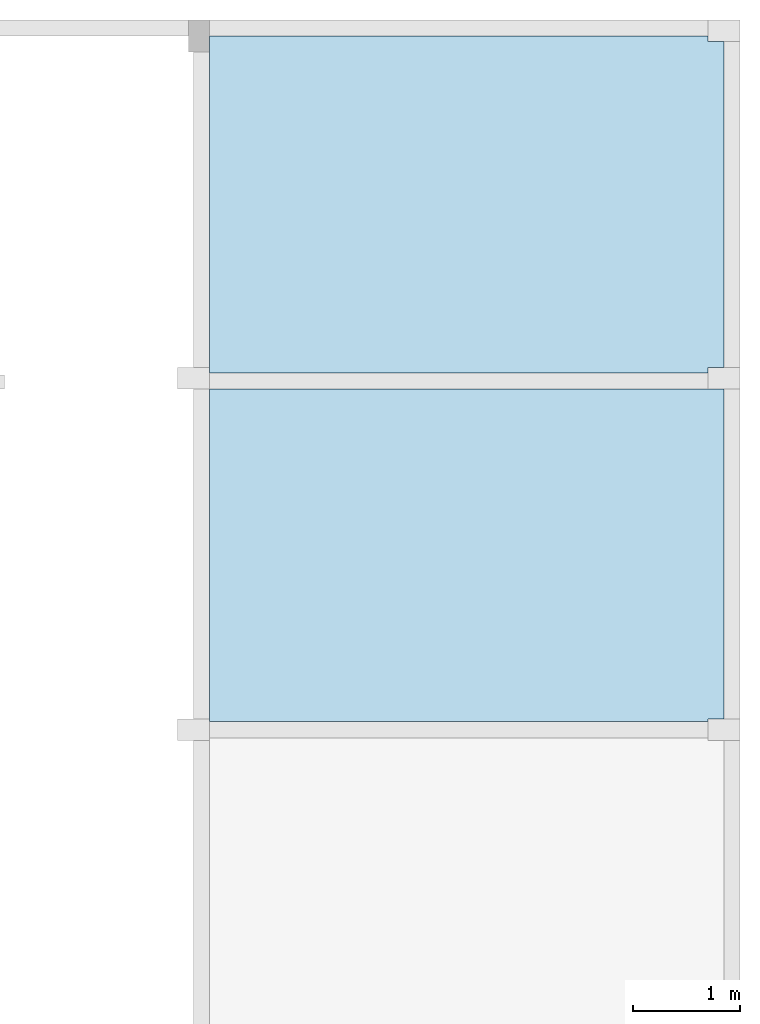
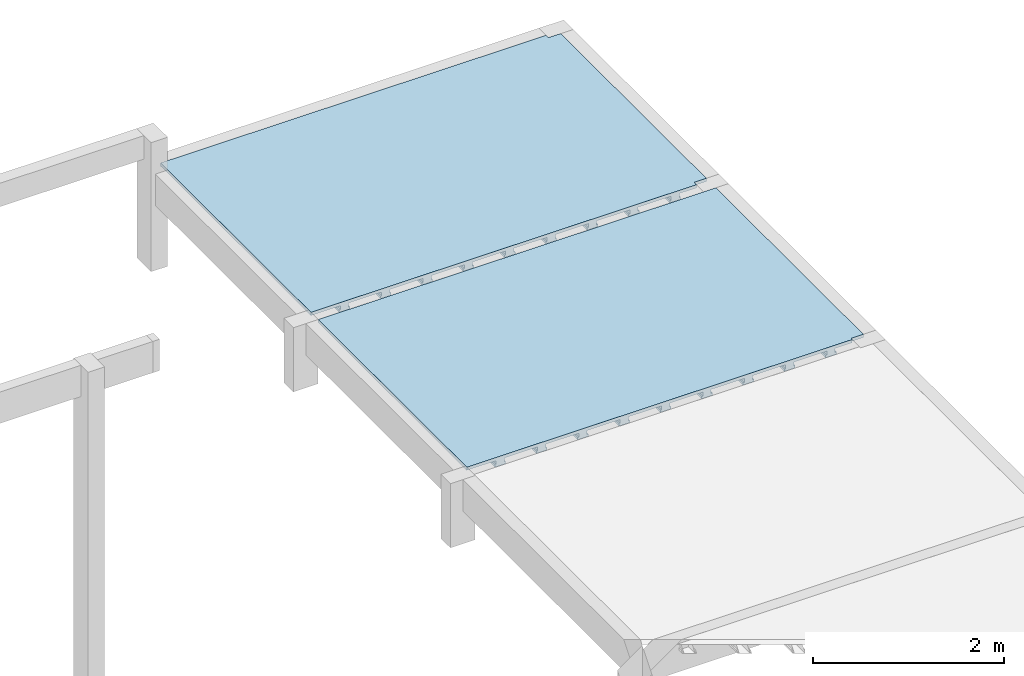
# One storey, part 3 of 3: 2 slabs.
"""IFC4 building model written with IfcOpenShell, lengths in centimetres."""

from ifc_helpers import new_model, si_unit, derived_unit, frame, origin_with_axes, place, context, project, spatial, polyline, outline, extrude, faceted_brep, material, element, save


model = new_model("IFC4")

# Units and contexts
model_context = context("Model", 3, precision=1e-05, world=origin_with_axes(), identifier="Body")
ifc_project = project(units=[si_unit("LENGTHUNIT", "METRE", prefix="CENTI"), si_unit("VOLUMEUNIT", "CUBIC_METRE"), si_unit("AREAUNIT", "SQUARE_METRE"), si_unit("POWERUNIT", "WATT"), si_unit("LUMINOUSFLUXUNIT", "LUMEN"), si_unit("ELECTRICCURRENTUNIT", "AMPERE"), si_unit("PRESSUREUNIT", "PASCAL", prefix="KILO"), si_unit("MASSUNIT", "GRAM", prefix="KILO"), si_unit("PLANEANGLEUNIT", "RADIAN"), derived_unit("VOLUMETRICFLOWRATEUNIT", [(si_unit("LENGTHUNIT", "METRE"), 3), (si_unit("TIMEUNIT", "SECOND"), -1)])], contexts=[model_context])

# Site, building, storey
site_placement = place(None, origin_with_axes())
site = spatial("IfcSite", under=ifc_project, at=site_placement)
building_placement = place(site_placement, frame((0.0, 0.0, -295.0)))
building = spatial("IfcBuilding", under=site, at=building_placement)
placement_1 = place(building_placement, origin_with_axes())
placement_2 = place(placement_1, frame((0.0, 0.0, 101.0), z_axis=(0.0, 0.0, 1.0), x_axis=(1.0, 0.0, 0.0)))
placement_3 = place(placement_2, frame((0.0, 0.0, 204.0), z_axis=(0.0, 0.0, 1.0), x_axis=(1.0, 0.0, 0.0)))
placement_4 = place(placement_3, frame((0.0, 0.0, 292.0), z_axis=(0.0, 0.0, 1.0), x_axis=(1.0, 0.0, 0.0)))
placement_5 = place(placement_4, frame((0.0, 0.0, 302.0), z_axis=(0.0, 0.0, 1.0), x_axis=(1.0, 0.0, 0.0)))
placement_6 = place(placement_5, frame((0.0, 0.0, 326.0), z_axis=(0.0, 0.0, 1.0), x_axis=(1.0, 0.0, 0.0)))
storey_placement = place(placement_6, frame((0.0, 0.0, 124.0), z_axis=(0.0, 0.0, 1.0), x_axis=(1.0, 0.0, 0.0)))
storey = spatial("IfcBuildingStorey", under=building, at=storey_placement, Name="TELHADO CINE", CompositionType="ELEMENT", Elevation=1054.0)

# Slabs
ifc_material = material(Name="Concreto")
slab_1_placement = place(storey_placement, frame((3761.2355, -5277.0845, -42.0), z_axis=(0.0, 0.0, 1.0), x_axis=(1.0, 0.0, 0.0)))
element("IfcSlab", 1, at=slab_1_placement, inside=storey, material=ifc_material, Name="L401", PredefinedType="FLOOR", context=model_context, shape_type="SolidModel", body=[
    extrude(outline(polyline([(225.504, -152.604), (240.525, -152.604), (240.525, 152.534), (225.525, 152.534), (225.524, 157.534), (-240.504, 157.535), (-240.524, -157.534), (225.505, -157.534), (225.504, -152.604), (225.504, -152.604)])), frame((-0.0005, -0.0005, -4.0), z_axis=(0.0, 0.0, 1.0), x_axis=(1.0, 0.0, 0.0)), (0.0, 0.0, 1.0), 4.0),
    faceted_brep([(-5.0005, -157.5345, -12.0), (-5.0005, 157.534, -12.0), (4.9995, 157.534, -12.0), (4.9995, -157.5345, -12.0), (4.9995, -157.5345, -4.0), (4.9995, 157.534, -4.0), (-5.0005, 157.534, -4.0), (-5.0005, -157.5345, -4.0)], [[[0, 1, 2, 3]], [[4, 5, 6, 7]], [[4, 3, 5]], [[3, 2, 5]], [[5, 2, 6]], [[2, 1, 6]], [[6, 1, 7]], [[1, 0, 7]], [[7, 0, 4]], [[0, 3, 4]]]),
    faceted_brep([(-6.5005, -157.5345, -12.0), (-6.5005, 157.534, -12.0), (-5.0005, 157.534, -12.0), (-5.0005, -157.5345, -12.0), (-5.0005, -157.5345, -9.0), (-5.0005, 157.534, -9.0), (-6.5005, 157.534, -9.0), (-6.5005, -157.5345, -9.0)], [[[0, 1, 2, 3]], [[4, 5, 6, 7]], [[4, 3, 5]], [[3, 2, 5]], [[5, 2, 6]], [[2, 1, 6]], [[6, 1, 7]], [[1, 0, 7]], [[7, 0, 4]], [[0, 3, 4]]]),
    faceted_brep([(4.9995, -157.5345, -12.0), (4.9995, 157.534, -12.0), (6.4995, 157.534, -12.0), (6.4995, -157.5345, -12.0), (6.4995, -157.5345, -9.0), (6.4995, 157.534, -9.0), (4.9995, 157.534, -9.0), (4.9995, -157.5345, -9.0)], [[[0, 1, 2, 3]], [[4, 5, 6, 7]], [[4, 3, 5]], [[3, 2, 5]], [[5, 2, 6]], [[2, 1, 6]], [[6, 1, 7]], [[1, 0, 7]], [[7, 0, 4]], [[0, 3, 4]]]),
    faceted_brep([(-55.0005, -157.5345, -12.0), (-55.0005, 157.534, -12.0), (-45.0005, 157.534, -12.0), (-45.0005, -157.5345, -12.0), (-45.0005, -157.5345, -4.0), (-45.0005, 157.534, -4.0), (-55.0005, 157.534, -4.0), (-55.0005, -157.5345, -4.0)], [[[0, 1, 2, 3]], [[4, 5, 6, 7]], [[4, 3, 5]], [[3, 2, 5]], [[5, 2, 6]], [[2, 1, 6]], [[6, 1, 7]], [[1, 0, 7]], [[7, 0, 4]], [[0, 3, 4]]]),
    faceted_brep([(-56.5005, -157.5345, -12.0), (-56.5005, 157.534, -12.0), (-55.0005, 157.534, -12.0), (-55.0005, -157.5345, -12.0), (-55.0005, -157.5345, -9.0), (-55.0005, 157.534, -9.0), (-56.5005, 157.534, -9.0), (-56.5005, -157.5345, -9.0)], [[[0, 1, 2, 3]], [[4, 5, 6, 7]], [[4, 3, 5]], [[3, 2, 5]], [[5, 2, 6]], [[2, 1, 6]], [[6, 1, 7]], [[1, 0, 7]], [[7, 0, 4]], [[0, 3, 4]]]),
    faceted_brep([(-45.0005, -157.5345, -12.0), (-45.0005, 157.534, -12.0), (-43.5005, 157.534, -12.0), (-43.5005, -157.5345, -12.0), (-43.5005, -157.5345, -9.0), (-43.5005, 157.534, -9.0), (-45.0005, 157.534, -9.0), (-45.0005, -157.5345, -9.0)], [[[0, 1, 2, 3]], [[4, 5, 6, 7]], [[4, 3, 5]], [[3, 2, 5]], [[5, 2, 6]], [[2, 1, 6]], [[6, 1, 7]], [[1, 0, 7]], [[7, 0, 4]], [[0, 3, 4]]]),
    faceted_brep([(-105.0005, -157.5345, -12.0), (-105.0005, 157.534, -12.0), (-95.0005, 157.534, -12.0), (-95.0005, -157.5345, -12.0), (-95.0005, -157.5345, -4.0), (-95.0005, 157.534, -4.0), (-105.0005, 157.534, -4.0), (-105.0005, -157.5345, -4.0)], [[[0, 1, 2, 3]], [[4, 5, 6, 7]], [[4, 3, 5]], [[3, 2, 5]], [[5, 2, 6]], [[2, 1, 6]], [[6, 1, 7]], [[1, 0, 7]], [[7, 0, 4]], [[0, 3, 4]]]),
    faceted_brep([(-106.5005, -157.5345, -12.0), (-106.5005, 157.534, -12.0), (-105.0005, 157.534, -12.0), (-105.0005, -157.5345, -12.0), (-105.0005, -157.5345, -9.0), (-105.0005, 157.534, -9.0), (-106.5005, 157.534, -9.0), (-106.5005, -157.5345, -9.0)], [[[0, 1, 2, 3]], [[4, 5, 6, 7]], [[4, 3, 5]], [[3, 2, 5]], [[5, 2, 6]], [[2, 1, 6]], [[6, 1, 7]], [[1, 0, 7]], [[7, 0, 4]], [[0, 3, 4]]]),
    faceted_brep([(-95.0005, -157.5345, -12.0), (-95.0005, 157.534, -12.0), (-93.5005, 157.534, -12.0), (-93.5005, -157.5345, -12.0), (-93.5005, -157.5345, -9.0), (-93.5005, 157.534, -9.0), (-95.0005, 157.534, -9.0), (-95.0005, -157.5345, -9.0)], [[[0, 1, 2, 3]], [[4, 5, 6, 7]], [[4, 3, 5]], [[3, 2, 5]], [[5, 2, 6]], [[2, 1, 6]], [[6, 1, 7]], [[1, 0, 7]], [[7, 0, 4]], [[0, 3, 4]]]),
    faceted_brep([(-155.0005, -157.5345, -12.0), (-155.0005, 157.534, -12.0), (-145.0005, 157.534, -12.0), (-145.0005, -157.5345, -12.0), (-145.0005, -157.5345, -4.0), (-145.0005, 157.534, -4.0), (-155.0005, 157.534, -4.0), (-155.0005, -157.5345, -4.0)], [[[0, 1, 2, 3]], [[4, 5, 6, 7]], [[4, 3, 5]], [[3, 2, 5]], [[5, 2, 6]], [[2, 1, 6]], [[6, 1, 7]], [[1, 0, 7]], [[7, 0, 4]], [[0, 3, 4]]]),
    faceted_brep([(-156.5005, -157.5345, -12.0), (-156.5005, 157.534, -12.0), (-155.0005, 157.534, -12.0), (-155.0005, -157.5345, -12.0), (-155.0005, -157.5345, -9.0), (-155.0005, 157.534, -9.0), (-156.5005, 157.534, -9.0), (-156.5005, -157.5345, -9.0)], [[[0, 1, 2, 3]], [[4, 5, 6, 7]], [[4, 3, 5]], [[3, 2, 5]], [[5, 2, 6]], [[2, 1, 6]], [[6, 1, 7]], [[1, 0, 7]], [[7, 0, 4]], [[0, 3, 4]]]),
    faceted_brep([(-145.0005, -157.5345, -12.0), (-145.0005, 157.534, -12.0), (-143.5005, 157.534, -12.0), (-143.5005, -157.5345, -12.0), (-143.5005, -157.5345, -9.0), (-143.5005, 157.534, -9.0), (-145.0005, 157.534, -9.0), (-145.0005, -157.5345, -9.0)], [[[0, 1, 2, 3]], [[4, 5, 6, 7]], [[4, 3, 5]], [[3, 2, 5]], [[5, 2, 6]], [[2, 1, 6]], [[6, 1, 7]], [[1, 0, 7]], [[7, 0, 4]], [[0, 3, 4]]]),
    faceted_brep([(-205.0005, -157.5345, -12.0), (-205.0005, 157.534, -12.0), (-195.0005, 157.534, -12.0), (-195.0005, -157.5345, -12.0), (-195.0005, -157.5345, -4.0), (-195.0005, 157.534, -4.0), (-205.0005, 157.534, -4.0), (-205.0005, -157.5345, -4.0)], [[[0, 1, 2, 3]], [[4, 5, 6, 7]], [[4, 3, 5]], [[3, 2, 5]], [[5, 2, 6]], [[2, 1, 6]], [[6, 1, 7]], [[1, 0, 7]], [[7, 0, 4]], [[0, 3, 4]]]),
    faceted_brep([(-206.5005, -157.5345, -12.0), (-206.5005, 157.534, -12.0), (-205.0005, 157.534, -12.0), (-205.0005, -157.5345, -12.0), (-205.0005, -157.5345, -9.0), (-205.0005, 157.534, -9.0), (-206.5005, 157.534, -9.0), (-206.5005, -157.5345, -9.0)], [[[0, 1, 2, 3]], [[4, 5, 6, 7]], [[4, 3, 5]], [[3, 2, 5]], [[5, 2, 6]], [[2, 1, 6]], [[6, 1, 7]], [[1, 0, 7]], [[7, 0, 4]], [[0, 3, 4]]]),
    faceted_brep([(-195.0005, -157.5345, -12.0), (-195.0005, 157.534, -12.0), (-193.5005, 157.534, -12.0), (-193.5005, -157.5345, -12.0), (-193.5005, -157.5345, -9.0), (-193.5005, 157.534, -9.0), (-195.0005, 157.534, -9.0), (-195.0005, -157.5345, -9.0)], [[[0, 1, 2, 3]], [[4, 5, 6, 7]], [[4, 3, 5]], [[3, 2, 5]], [[5, 2, 6]], [[2, 1, 6]], [[6, 1, 7]], [[1, 0, 7]], [[7, 0, 4]], [[0, 3, 4]]]),
    faceted_brep([(44.9995, -157.5345, -12.0), (44.9995, 157.534, -12.0), (54.9995, 157.534, -12.0), (54.9995, -157.5345, -12.0), (54.9995, -157.5345, -4.0), (54.9995, 157.534, -4.0), (44.9995, 157.534, -4.0), (44.9995, -157.5345, -4.0)], [[[0, 1, 2, 3]], [[4, 5, 6, 7]], [[4, 3, 5]], [[3, 2, 5]], [[5, 2, 6]], [[2, 1, 6]], [[6, 1, 7]], [[1, 0, 7]], [[7, 0, 4]], [[0, 3, 4]]]),
    faceted_brep([(43.4995, -157.5345, -12.0), (43.4995, 157.534, -12.0), (44.9995, 157.534, -12.0), (44.9995, -157.5345, -12.0), (44.9995, -157.5345, -9.0), (44.9995, 157.534, -9.0), (43.4995, 157.534, -9.0), (43.4995, -157.5345, -9.0)], [[[0, 1, 2, 3]], [[4, 5, 6, 7]], [[4, 3, 5]], [[3, 2, 5]], [[5, 2, 6]], [[2, 1, 6]], [[6, 1, 7]], [[1, 0, 7]], [[7, 0, 4]], [[0, 3, 4]]]),
    faceted_brep([(54.9995, -157.5345, -12.0), (54.9995, 157.534, -12.0), (56.4995, 157.534, -12.0), (56.4995, -157.5345, -12.0), (56.4995, -157.5345, -9.0), (56.4995, 157.534, -9.0), (54.9995, 157.534, -9.0), (54.9995, -157.5345, -9.0)], [[[0, 1, 2, 3]], [[4, 5, 6, 7]], [[4, 3, 5]], [[3, 2, 5]], [[5, 2, 6]], [[2, 1, 6]], [[6, 1, 7]], [[1, 0, 7]], [[7, 0, 4]], [[0, 3, 4]]]),
    faceted_brep([(94.9995, -157.5345, -12.0), (94.9995, 157.534, -12.0), (104.9995, 157.534, -12.0), (104.9995, -157.5345, -12.0), (104.9995, -157.5345, -4.0), (104.9995, 157.534, -4.0), (94.9995, 157.534, -4.0), (94.9995, -157.5345, -4.0)], [[[0, 1, 2, 3]], [[4, 5, 6, 7]], [[4, 3, 5]], [[3, 2, 5]], [[5, 2, 6]], [[2, 1, 6]], [[6, 1, 7]], [[1, 0, 7]], [[7, 0, 4]], [[0, 3, 4]]]),
    faceted_brep([(93.4995, -157.5345, -12.0), (93.4995, 157.534, -12.0), (94.9995, 157.534, -12.0), (94.9995, -157.5345, -12.0), (94.9995, -157.5345, -9.0), (94.9995, 157.534, -9.0), (93.4995, 157.534, -9.0), (93.4995, -157.5345, -9.0)], [[[0, 1, 2, 3]], [[4, 5, 6, 7]], [[4, 3, 5]], [[3, 2, 5]], [[5, 2, 6]], [[2, 1, 6]], [[6, 1, 7]], [[1, 0, 7]], [[7, 0, 4]], [[0, 3, 4]]]),
    faceted_brep([(104.9995, -157.5345, -12.0), (104.9995, 157.534, -12.0), (106.4995, 157.534, -12.0), (106.4995, -157.5345, -12.0), (106.4995, -157.5345, -9.0), (106.4995, 157.534, -9.0), (104.9995, 157.534, -9.0), (104.9995, -157.5345, -9.0)], [[[0, 1, 2, 3]], [[4, 5, 6, 7]], [[4, 3, 5]], [[3, 2, 5]], [[5, 2, 6]], [[2, 1, 6]], [[6, 1, 7]], [[1, 0, 7]], [[7, 0, 4]], [[0, 3, 4]]]),
    faceted_brep([(144.9995, -157.5345, -12.0), (144.9995, 157.534, -12.0), (154.9995, 157.534, -12.0), (154.9995, -157.5345, -12.0), (154.9995, -157.5345, -4.0), (154.9995, 157.534, -4.0), (144.9995, 157.534, -4.0), (144.9995, -157.5345, -4.0)], [[[0, 1, 2, 3]], [[4, 5, 6, 7]], [[4, 3, 5]], [[3, 2, 5]], [[5, 2, 6]], [[2, 1, 6]], [[6, 1, 7]], [[1, 0, 7]], [[7, 0, 4]], [[0, 3, 4]]]),
    faceted_brep([(143.4995, -157.5345, -12.0), (143.4995, 157.534, -12.0), (144.9995, 157.534, -12.0), (144.9995, -157.5345, -12.0), (144.9995, -157.5345, -9.0), (144.9995, 157.534, -9.0), (143.4995, 157.534, -9.0), (143.4995, -157.5345, -9.0)], [[[0, 1, 2, 3]], [[4, 5, 6, 7]], [[4, 3, 5]], [[3, 2, 5]], [[5, 2, 6]], [[2, 1, 6]], [[6, 1, 7]], [[1, 0, 7]], [[7, 0, 4]], [[0, 3, 4]]]),
    faceted_brep([(154.9995, -157.5345, -12.0), (154.9995, 157.534, -12.0), (156.4995, 157.534, -12.0), (156.4995, -157.5345, -12.0), (156.4995, -157.5345, -9.0), (156.4995, 157.534, -9.0), (154.9995, 157.534, -9.0), (154.9995, -157.5345, -9.0)], [[[0, 1, 2, 3]], [[4, 5, 6, 7]], [[4, 3, 5]], [[3, 2, 5]], [[5, 2, 6]], [[2, 1, 6]], [[6, 1, 7]], [[1, 0, 7]], [[7, 0, 4]], [[0, 3, 4]]]),
    faceted_brep([(194.9995, -157.5345, -12.0), (194.9995, 157.534, -12.0), (204.9995, 157.534, -12.0), (204.9995, -157.5345, -12.0), (204.9995, -157.5345, -4.0), (204.9995, 157.534, -4.0), (194.9995, 157.534, -4.0), (194.9995, -157.5345, -4.0)], [[[0, 1, 2, 3]], [[4, 5, 6, 7]], [[4, 3, 5]], [[3, 2, 5]], [[5, 2, 6]], [[2, 1, 6]], [[6, 1, 7]], [[1, 0, 7]], [[7, 0, 4]], [[0, 3, 4]]]),
    faceted_brep([(193.4995, -157.5345, -12.0), (193.4995, 157.534, -12.0), (194.9995, 157.534, -12.0), (194.9995, -157.5345, -12.0), (194.9995, -157.5345, -9.0), (194.9995, 157.534, -9.0), (193.4995, 157.534, -9.0), (193.4995, -157.5345, -9.0)], [[[0, 1, 2, 3]], [[4, 5, 6, 7]], [[4, 3, 5]], [[3, 2, 5]], [[5, 2, 6]], [[2, 1, 6]], [[6, 1, 7]], [[1, 0, 7]], [[7, 0, 4]], [[0, 3, 4]]]),
    faceted_brep([(204.9995, -157.5345, -12.0), (204.9995, 157.534, -12.0), (206.4995, 157.534, -12.0), (206.4995, -157.5345, -12.0), (206.4995, -157.5345, -9.0), (206.4995, 157.534, -9.0), (204.9995, 157.534, -9.0), (204.9995, -157.5345, -9.0)], [[[0, 1, 2, 3]], [[4, 5, 6, 7]], [[4, 3, 5]], [[3, 2, 5]], [[5, 2, 6]], [[2, 1, 6]], [[6, 1, 7]], [[1, 0, 7]], [[7, 0, 4]], [[0, 3, 4]]]),
])
slab_2_placement = place(storey_placement, frame((3761.2355, -5605.37, -42.0), z_axis=(0.0, 0.0, 1.0), x_axis=(1.0, 0.0, 0.0)))
element("IfcSlab", 2, at=slab_2_placement, inside=storey, material=ifc_material, Name="L402", PredefinedType="FLOOR", context=model_context, shape_type="SolidModel", body=[
    extrude(outline(polyline([(225.525, -153.18), (240.525, -153.179), (240.525, 155.68), (-240.524, 155.68), (-240.505, -155.679), (225.525, -155.68), (225.525, -153.18), (225.525, -153.18)])), frame((-0.0005, 0.0, -4.0), z_axis=(0.0, 0.0, 1.0), x_axis=(1.0, 0.0, 0.0)), (0.0, 0.0, 1.0), 4.0),
    faceted_brep([(-5.0005, -155.6795, -12.0), (-5.0005, 155.68, -12.0), (4.9995, 155.68, -12.0), (4.9995, -155.6795, -12.0), (4.9995, -155.6795, -4.0), (4.9995, 155.68, -4.0), (-5.0005, 155.68, -4.0), (-5.0005, -155.6795, -4.0)], [[[0, 1, 2, 3]], [[4, 5, 6, 7]], [[4, 3, 5]], [[3, 2, 5]], [[5, 2, 6]], [[2, 1, 6]], [[6, 1, 7]], [[1, 0, 7]], [[7, 0, 4]], [[0, 3, 4]]]),
    faceted_brep([(-6.5005, -155.6795, -12.0), (-6.5005, 155.68, -12.0), (-5.0005, 155.68, -12.0), (-5.0005, -155.6795, -12.0), (-5.0005, -155.6795, -9.0), (-5.0005, 155.68, -9.0), (-6.5005, 155.68, -9.0), (-6.5005, -155.6795, -9.0)], [[[0, 1, 2, 3]], [[4, 5, 6, 7]], [[4, 3, 5]], [[3, 2, 5]], [[5, 2, 6]], [[2, 1, 6]], [[6, 1, 7]], [[1, 0, 7]], [[7, 0, 4]], [[0, 3, 4]]]),
    faceted_brep([(4.9995, -155.6795, -12.0), (4.9995, 155.68, -12.0), (6.4995, 155.68, -12.0), (6.4995, -155.6795, -12.0), (6.4995, -155.6795, -9.0), (6.4995, 155.68, -9.0), (4.9995, 155.68, -9.0), (4.9995, -155.6795, -9.0)], [[[0, 1, 2, 3]], [[4, 5, 6, 7]], [[4, 3, 5]], [[3, 2, 5]], [[5, 2, 6]], [[2, 1, 6]], [[6, 1, 7]], [[1, 0, 7]], [[7, 0, 4]], [[0, 3, 4]]]),
    faceted_brep([(-55.0005, -155.6795, -12.0), (-55.0005, 155.68, -12.0), (-45.0005, 155.68, -12.0), (-45.0005, -155.6795, -12.0), (-45.0005, -155.6795, -4.0), (-45.0005, 155.68, -4.0), (-55.0005, 155.68, -4.0), (-55.0005, -155.6795, -4.0)], [[[0, 1, 2, 3]], [[4, 5, 6, 7]], [[4, 3, 5]], [[3, 2, 5]], [[5, 2, 6]], [[2, 1, 6]], [[6, 1, 7]], [[1, 0, 7]], [[7, 0, 4]], [[0, 3, 4]]]),
    faceted_brep([(-56.5005, -155.6795, -12.0), (-56.5005, 155.68, -12.0), (-55.0005, 155.68, -12.0), (-55.0005, -155.6795, -12.0), (-55.0005, -155.6795, -9.0), (-55.0005, 155.68, -9.0), (-56.5005, 155.68, -9.0), (-56.5005, -155.6795, -9.0)], [[[0, 1, 2, 3]], [[4, 5, 6, 7]], [[4, 3, 5]], [[3, 2, 5]], [[5, 2, 6]], [[2, 1, 6]], [[6, 1, 7]], [[1, 0, 7]], [[7, 0, 4]], [[0, 3, 4]]]),
    faceted_brep([(-45.0005, -155.6795, -12.0), (-45.0005, 155.68, -12.0), (-43.5005, 155.68, -12.0), (-43.5005, -155.6795, -12.0), (-43.5005, -155.6795, -9.0), (-43.5005, 155.68, -9.0), (-45.0005, 155.68, -9.0), (-45.0005, -155.6795, -9.0)], [[[0, 1, 2, 3]], [[4, 5, 6, 7]], [[4, 3, 5]], [[3, 2, 5]], [[5, 2, 6]], [[2, 1, 6]], [[6, 1, 7]], [[1, 0, 7]], [[7, 0, 4]], [[0, 3, 4]]]),
    faceted_brep([(-105.0005, -155.6795, -12.0), (-105.0005, 155.68, -12.0), (-95.0005, 155.68, -12.0), (-95.0005, -155.6795, -12.0), (-95.0005, -155.6795, -4.0), (-95.0005, 155.68, -4.0), (-105.0005, 155.68, -4.0), (-105.0005, -155.6795, -4.0)], [[[0, 1, 2, 3]], [[4, 5, 6, 7]], [[4, 3, 5]], [[3, 2, 5]], [[5, 2, 6]], [[2, 1, 6]], [[6, 1, 7]], [[1, 0, 7]], [[7, 0, 4]], [[0, 3, 4]]]),
    faceted_brep([(-106.5005, -155.6795, -12.0), (-106.5005, 155.68, -12.0), (-105.0005, 155.68, -12.0), (-105.0005, -155.6795, -12.0), (-105.0005, -155.6795, -9.0), (-105.0005, 155.68, -9.0), (-106.5005, 155.68, -9.0), (-106.5005, -155.6795, -9.0)], [[[0, 1, 2, 3]], [[4, 5, 6, 7]], [[4, 3, 5]], [[3, 2, 5]], [[5, 2, 6]], [[2, 1, 6]], [[6, 1, 7]], [[1, 0, 7]], [[7, 0, 4]], [[0, 3, 4]]]),
    faceted_brep([(-95.0005, -155.6795, -12.0), (-95.0005, 155.68, -12.0), (-93.5005, 155.68, -12.0), (-93.5005, -155.6795, -12.0), (-93.5005, -155.6795, -9.0), (-93.5005, 155.68, -9.0), (-95.0005, 155.68, -9.0), (-95.0005, -155.6795, -9.0)], [[[0, 1, 2, 3]], [[4, 5, 6, 7]], [[4, 3, 5]], [[3, 2, 5]], [[5, 2, 6]], [[2, 1, 6]], [[6, 1, 7]], [[1, 0, 7]], [[7, 0, 4]], [[0, 3, 4]]]),
    faceted_brep([(-155.0005, -155.6795, -12.0), (-155.0005, 155.68, -12.0), (-145.0005, 155.68, -12.0), (-145.0005, -155.6795, -12.0), (-145.0005, -155.6795, -4.0), (-145.0005, 155.68, -4.0), (-155.0005, 155.68, -4.0), (-155.0005, -155.6795, -4.0)], [[[0, 1, 2, 3]], [[4, 5, 6, 7]], [[4, 3, 5]], [[3, 2, 5]], [[5, 2, 6]], [[2, 1, 6]], [[6, 1, 7]], [[1, 0, 7]], [[7, 0, 4]], [[0, 3, 4]]]),
    faceted_brep([(-156.5005, -155.6795, -12.0), (-156.5005, 155.68, -12.0), (-155.0005, 155.68, -12.0), (-155.0005, -155.6795, -12.0), (-155.0005, -155.6795, -9.0), (-155.0005, 155.68, -9.0), (-156.5005, 155.68, -9.0), (-156.5005, -155.6795, -9.0)], [[[0, 1, 2, 3]], [[4, 5, 6, 7]], [[4, 3, 5]], [[3, 2, 5]], [[5, 2, 6]], [[2, 1, 6]], [[6, 1, 7]], [[1, 0, 7]], [[7, 0, 4]], [[0, 3, 4]]]),
    faceted_brep([(-145.0005, -155.6795, -12.0), (-145.0005, 155.68, -12.0), (-143.5005, 155.68, -12.0), (-143.5005, -155.6795, -12.0), (-143.5005, -155.6795, -9.0), (-143.5005, 155.68, -9.0), (-145.0005, 155.68, -9.0), (-145.0005, -155.6795, -9.0)], [[[0, 1, 2, 3]], [[4, 5, 6, 7]], [[4, 3, 5]], [[3, 2, 5]], [[5, 2, 6]], [[2, 1, 6]], [[6, 1, 7]], [[1, 0, 7]], [[7, 0, 4]], [[0, 3, 4]]]),
    faceted_brep([(-205.0005, -155.6795, -12.0), (-205.0005, 155.68, -12.0), (-195.0005, 155.68, -12.0), (-195.0005, -155.6795, -12.0), (-195.0005, -155.6795, -4.0), (-195.0005, 155.68, -4.0), (-205.0005, 155.68, -4.0), (-205.0005, -155.6795, -4.0)], [[[0, 1, 2, 3]], [[4, 5, 6, 7]], [[4, 3, 5]], [[3, 2, 5]], [[5, 2, 6]], [[2, 1, 6]], [[6, 1, 7]], [[1, 0, 7]], [[7, 0, 4]], [[0, 3, 4]]]),
    faceted_brep([(-206.5005, -155.6795, -12.0), (-206.5005, 155.68, -12.0), (-205.0005, 155.68, -12.0), (-205.0005, -155.6795, -12.0), (-205.0005, -155.6795, -9.0), (-205.0005, 155.68, -9.0), (-206.5005, 155.68, -9.0), (-206.5005, -155.6795, -9.0)], [[[0, 1, 2, 3]], [[4, 5, 6, 7]], [[4, 3, 5]], [[3, 2, 5]], [[5, 2, 6]], [[2, 1, 6]], [[6, 1, 7]], [[1, 0, 7]], [[7, 0, 4]], [[0, 3, 4]]]),
    faceted_brep([(-195.0005, -155.6795, -12.0), (-195.0005, 155.68, -12.0), (-193.5005, 155.68, -12.0), (-193.5005, -155.6795, -12.0), (-193.5005, -155.6795, -9.0), (-193.5005, 155.68, -9.0), (-195.0005, 155.68, -9.0), (-195.0005, -155.6795, -9.0)], [[[0, 1, 2, 3]], [[4, 5, 6, 7]], [[4, 3, 5]], [[3, 2, 5]], [[5, 2, 6]], [[2, 1, 6]], [[6, 1, 7]], [[1, 0, 7]], [[7, 0, 4]], [[0, 3, 4]]]),
    faceted_brep([(44.9995, -155.6795, -12.0), (44.9995, 155.68, -12.0), (54.9995, 155.68, -12.0), (54.9995, -155.6795, -12.0), (54.9995, -155.6795, -4.0), (54.9995, 155.68, -4.0), (44.9995, 155.68, -4.0), (44.9995, -155.6795, -4.0)], [[[0, 1, 2, 3]], [[4, 5, 6, 7]], [[4, 3, 5]], [[3, 2, 5]], [[5, 2, 6]], [[2, 1, 6]], [[6, 1, 7]], [[1, 0, 7]], [[7, 0, 4]], [[0, 3, 4]]]),
    faceted_brep([(43.4995, -155.6795, -12.0), (43.4995, 155.68, -12.0), (44.9995, 155.68, -12.0), (44.9995, -155.6795, -12.0), (44.9995, -155.6795, -9.0), (44.9995, 155.68, -9.0), (43.4995, 155.68, -9.0), (43.4995, -155.6795, -9.0)], [[[0, 1, 2, 3]], [[4, 5, 6, 7]], [[4, 3, 5]], [[3, 2, 5]], [[5, 2, 6]], [[2, 1, 6]], [[6, 1, 7]], [[1, 0, 7]], [[7, 0, 4]], [[0, 3, 4]]]),
    faceted_brep([(54.9995, -155.6795, -12.0), (54.9995, 155.68, -12.0), (56.4995, 155.68, -12.0), (56.4995, -155.6795, -12.0), (56.4995, -155.6795, -9.0), (56.4995, 155.68, -9.0), (54.9995, 155.68, -9.0), (54.9995, -155.6795, -9.0)], [[[0, 1, 2, 3]], [[4, 5, 6, 7]], [[4, 3, 5]], [[3, 2, 5]], [[5, 2, 6]], [[2, 1, 6]], [[6, 1, 7]], [[1, 0, 7]], [[7, 0, 4]], [[0, 3, 4]]]),
    faceted_brep([(94.9995, -155.6795, -12.0), (94.9995, 155.68, -12.0), (104.9995, 155.68, -12.0), (104.9995, -155.6795, -12.0), (104.9995, -155.6795, -4.0), (104.9995, 155.68, -4.0), (94.9995, 155.68, -4.0), (94.9995, -155.6795, -4.0)], [[[0, 1, 2, 3]], [[4, 5, 6, 7]], [[4, 3, 5]], [[3, 2, 5]], [[5, 2, 6]], [[2, 1, 6]], [[6, 1, 7]], [[1, 0, 7]], [[7, 0, 4]], [[0, 3, 4]]]),
    faceted_brep([(93.4995, -155.6795, -12.0), (93.4995, 155.68, -12.0), (94.9995, 155.68, -12.0), (94.9995, -155.6795, -12.0), (94.9995, -155.6795, -9.0), (94.9995, 155.68, -9.0), (93.4995, 155.68, -9.0), (93.4995, -155.6795, -9.0)], [[[0, 1, 2, 3]], [[4, 5, 6, 7]], [[4, 3, 5]], [[3, 2, 5]], [[5, 2, 6]], [[2, 1, 6]], [[6, 1, 7]], [[1, 0, 7]], [[7, 0, 4]], [[0, 3, 4]]]),
    faceted_brep([(104.9995, -155.6795, -12.0), (104.9995, 155.68, -12.0), (106.4995, 155.68, -12.0), (106.4995, -155.6795, -12.0), (106.4995, -155.6795, -9.0), (106.4995, 155.68, -9.0), (104.9995, 155.68, -9.0), (104.9995, -155.6795, -9.0)], [[[0, 1, 2, 3]], [[4, 5, 6, 7]], [[4, 3, 5]], [[3, 2, 5]], [[5, 2, 6]], [[2, 1, 6]], [[6, 1, 7]], [[1, 0, 7]], [[7, 0, 4]], [[0, 3, 4]]]),
    faceted_brep([(144.9995, -155.6795, -12.0), (144.9995, 155.68, -12.0), (154.9995, 155.68, -12.0), (154.9995, -155.6795, -12.0), (154.9995, -155.6795, -4.0), (154.9995, 155.68, -4.0), (144.9995, 155.68, -4.0), (144.9995, -155.6795, -4.0)], [[[0, 1, 2, 3]], [[4, 5, 6, 7]], [[4, 3, 5]], [[3, 2, 5]], [[5, 2, 6]], [[2, 1, 6]], [[6, 1, 7]], [[1, 0, 7]], [[7, 0, 4]], [[0, 3, 4]]]),
    faceted_brep([(143.4995, -155.6795, -12.0), (143.4995, 155.68, -12.0), (144.9995, 155.68, -12.0), (144.9995, -155.6795, -12.0), (144.9995, -155.6795, -9.0), (144.9995, 155.68, -9.0), (143.4995, 155.68, -9.0), (143.4995, -155.6795, -9.0)], [[[0, 1, 2, 3]], [[4, 5, 6, 7]], [[4, 3, 5]], [[3, 2, 5]], [[5, 2, 6]], [[2, 1, 6]], [[6, 1, 7]], [[1, 0, 7]], [[7, 0, 4]], [[0, 3, 4]]]),
    faceted_brep([(154.9995, -155.6795, -12.0), (154.9995, 155.68, -12.0), (156.4995, 155.68, -12.0), (156.4995, -155.6795, -12.0), (156.4995, -155.6795, -9.0), (156.4995, 155.68, -9.0), (154.9995, 155.68, -9.0), (154.9995, -155.6795, -9.0)], [[[0, 1, 2, 3]], [[4, 5, 6, 7]], [[4, 3, 5]], [[3, 2, 5]], [[5, 2, 6]], [[2, 1, 6]], [[6, 1, 7]], [[1, 0, 7]], [[7, 0, 4]], [[0, 3, 4]]]),
    faceted_brep([(194.9995, -155.6795, -12.0), (194.9995, 155.68, -12.0), (204.9995, 155.68, -12.0), (204.9995, -155.6795, -12.0), (204.9995, -155.6795, -4.0), (204.9995, 155.68, -4.0), (194.9995, 155.68, -4.0), (194.9995, -155.6795, -4.0)], [[[0, 1, 2, 3]], [[4, 5, 6, 7]], [[4, 3, 5]], [[3, 2, 5]], [[5, 2, 6]], [[2, 1, 6]], [[6, 1, 7]], [[1, 0, 7]], [[7, 0, 4]], [[0, 3, 4]]]),
    faceted_brep([(193.4995, -155.6795, -12.0), (193.4995, 155.68, -12.0), (194.9995, 155.68, -12.0), (194.9995, -155.6795, -12.0), (194.9995, -155.6795, -9.0), (194.9995, 155.68, -9.0), (193.4995, 155.68, -9.0), (193.4995, -155.6795, -9.0)], [[[0, 1, 2, 3]], [[4, 5, 6, 7]], [[4, 3, 5]], [[3, 2, 5]], [[5, 2, 6]], [[2, 1, 6]], [[6, 1, 7]], [[1, 0, 7]], [[7, 0, 4]], [[0, 3, 4]]]),
    faceted_brep([(204.9995, -155.6795, -12.0), (204.9995, 155.68, -12.0), (206.4995, 155.68, -12.0), (206.4995, -155.6795, -12.0), (206.4995, -155.6795, -9.0), (206.4995, 155.68, -9.0), (204.9995, 155.68, -9.0), (204.9995, -155.6795, -9.0)], [[[0, 1, 2, 3]], [[4, 5, 6, 7]], [[4, 3, 5]], [[3, 2, 5]], [[5, 2, 6]], [[2, 1, 6]], [[6, 1, 7]], [[1, 0, 7]], [[7, 0, 4]], [[0, 3, 4]]]),
])

save(model, "model.ifc")
